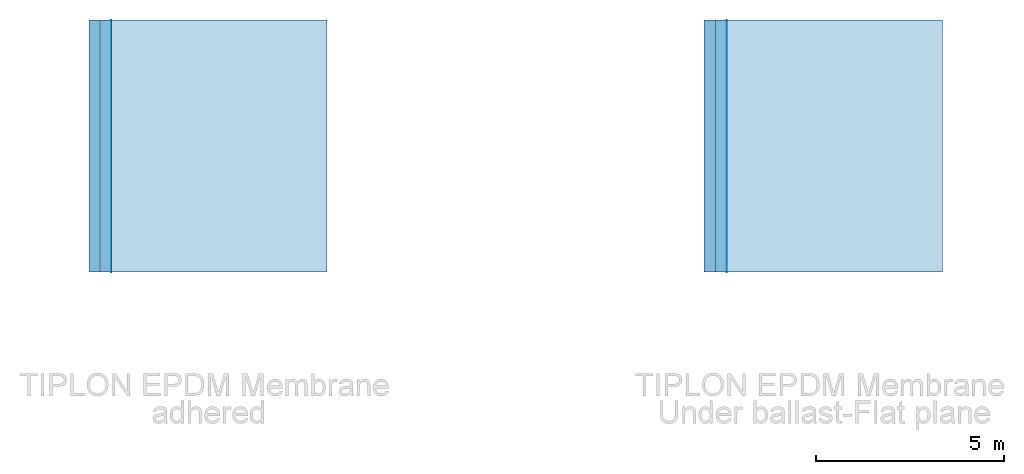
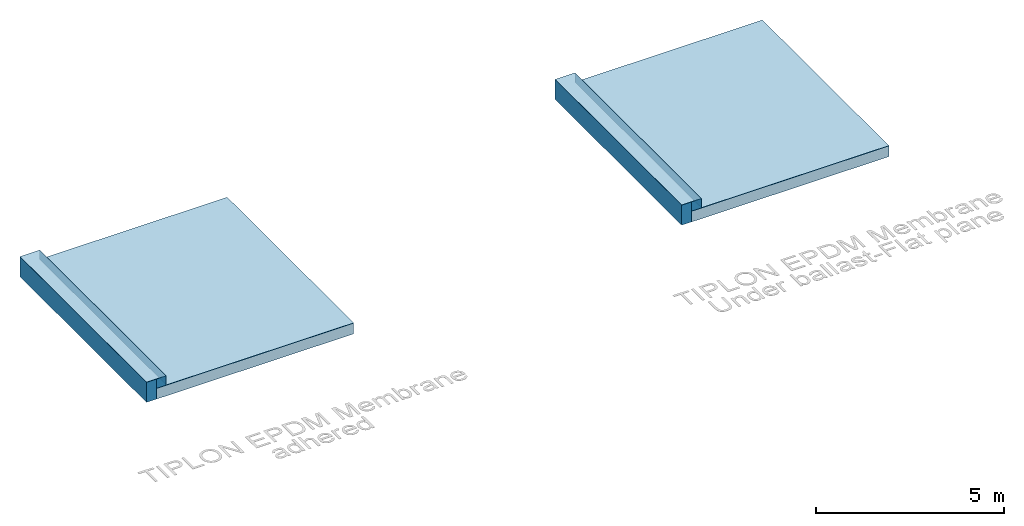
# One storey, incomplete: 6 slabs, 6 walls, 6 elements without a shape of their own.
"""IFC2X3 building model written with IfcOpenShell, lengths in millimetres."""

from ifc_helpers import new_model, entity, si_unit, converted_unit, direction, frame, frame_2d, origin, origin_2d_with_axis, place, context, subcontext, project, spatial, rectangle, extrude, clip, halfspace, material, layer, layer_set, layer_usage, type_object, element, aggregate, save


model = new_model("IFC2X3")

# Units and contexts
model_context = context("Model", 3, precision=0.01, world=origin(), true_north=direction((6.123233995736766e-17, 1.0)))
body_context = subcontext(model_context, "Body", "Model", "MODEL_VIEW")
ifc_project = project(units=[si_unit("LENGTHUNIT", "METRE", prefix="MILLI"), converted_unit("PLANEANGLEUNIT", "DEGREE", entity("IfcPlaneAngleMeasure", 0.017453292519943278), si_unit("PLANEANGLEUNIT", "RADIAN"), dimensions=[0, 0, 0, 0, 0, 0, 0]), si_unit("AREAUNIT", "SQUARE_METRE")], contexts=[model_context])

# Site, building, storey
site_placement = place(None, origin())
site = spatial("IfcSite", under=ifc_project, at=site_placement, Name="Default", CompositionType="ELEMENT")
building_placement = place(site_placement, origin())
building = spatial("IfcBuilding", under=site, at=building_placement, CompositionType="ELEMENT")
storey_placement = place(building_placement, origin())
storey = spatial("IfcBuildingStorey", under=building, at=storey_placement, Name="Niveau 1", CompositionType="ELEMENT", Elevation=0.0)

# Roof, slab
ifc_material_1 = material(Name="Tiplon Membrane EPDM adhered_Flat plane")
ifc_layer_1 = layer(ifc_material_1, 1.5)
ifc_material_2 = material(Name="Contact adhesive Tiplon")
ifc_layer_2 = layer(ifc_material_2, 1.1)
ifc_layer_set_1 = layer_set([ifc_layer_1, ifc_layer_2], Name="Toit de base:Tiplon Membrane EPDM adhered-Flat plane")
roof_1_placement = place(storey_placement, frame((6837.3553681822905, 5160.491318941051, 135.20000000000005)))
roof_1 = element("IfcRoof", 1, at=roof_1_placement, inside=storey, material=ifc_layer_set_1, Name="Toit de base:Tiplon Membrane EPDM adhered-Flat plane", ObjectType="Toit de base:Tiplon Membrane EPDM adhered-Flat plane", ShapeType="NOTDEFINED")
type_product_1 = type_object("IfcTypeProduct", Name="Toit de base:Tiplon Membrane EPDM adhered-Flat plane")
slab_1_placement = place(roof_1_placement, origin())
slab_1 = element("IfcSlab", 2, at=slab_1_placement, type_object=type_product_1, material=ifc_layer_set_1, Name="Toit de base:Tiplon Membrane EPDM adhered-Flat plane", ObjectType="Toit de base:Tiplon Membrane EPDM adhered-Flat plane", PredefinedType="ROOF", context=body_context, shape_type="SweptSolid", body=[
    extrude(rectangle(XDim=6714.46153846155, YDim=5746.950000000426, at=frame_2d((0.0, 0.0), x_axis=(0.0, 1.0))), frame((2873.475000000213, 3357.230769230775, 0.0)), (0.0, 0.0, 1.0), 2.600000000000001),
])
aggregate(roof_1, [slab_1])

ifc_material_3 = material(Name="Polyester protective film")
ifc_layer_3 = layer(ifc_material_3, 0.8)
ifc_material_4 = material(Name="Tiplon Membrane EPDM under ballast_Flat plane")
ifc_layer_4 = layer(ifc_material_4, 1.5)
ifc_layer_set_2 = layer_set([ifc_layer_3, ifc_layer_4], Name="Toit de base:Tiplon Membrane EPDM under ballast-Flat plane")
roof_2_placement = place(storey_placement, frame((23232.555368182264, 5160.6254592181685, 135.20000000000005)))
roof_2 = element("IfcRoof", 3, at=roof_2_placement, inside=storey, material=ifc_layer_set_2, Name="Toit de base:Tiplon Membrane EPDM under ballast-Flat plane", ObjectType="Toit de base:Tiplon Membrane EPDM under ballast-Flat plane", ShapeType="NOTDEFINED")
type_product_2 = type_object("IfcTypeProduct", Name="Toit de base:Tiplon Membrane EPDM under ballast-Flat plane")
slab_2_placement = place(roof_2_placement, origin())
slab_2 = element("IfcSlab", 4, at=slab_2_placement, type_object=type_product_2, material=ifc_layer_set_2, Name="Toit de base:Tiplon Membrane EPDM under ballast-Flat plane", ObjectType="Toit de base:Tiplon Membrane EPDM under ballast-Flat plane", PredefinedType="ROOF", context=body_context, shape_type="SweptSolid", body=[
    extrude(rectangle(XDim=6714.46153846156, YDim=5746.95000000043, at=frame_2d((0.0, 4.547473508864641e-13), x_axis=(0.0, 1.0))), frame((2873.475000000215, 3357.2307692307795, 0.0)), (0.0, 0.0, 1.0), 2.3000000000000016),
])
aggregate(roof_2, [slab_2])

ifc_material_5 = material(Name="Tiplon Membrane EPDM adhered_Upstand")
ifc_layer_5 = layer(ifc_material_5, 1.5)
ifc_layer_6 = layer(ifc_material_2, 1.1)
ifc_layer_set_3 = layer_set([ifc_layer_5, ifc_layer_6], Name="Toit de base:Tiplon Membrane EPDM adhered_Upstands")
roof_3_placement = place(storey_placement, frame((6237.330529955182, 5160.587790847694, 435.2)))
roof_3 = element("IfcRoof", 5, at=roof_3_placement, inside=storey, material=ifc_layer_set_3, Name="Toit de base:Tiplon Membrane EPDM adhered_Upstands", ObjectType="Toit de base:Tiplon Membrane EPDM adhered_Upstands", ShapeType="NOTDEFINED")
type_product_3 = type_object("IfcTypeProduct", Name="Toit de base:Tiplon Membrane EPDM adhered_Upstands")
slab_3_placement = place(roof_3_placement, origin())
slab_3 = element("IfcSlab", 6, at=slab_3_placement, type_object=type_product_3, material=ifc_layer_set_3, Name="Toit de base:Tiplon Membrane EPDM adhered_Upstands", ObjectType="Toit de base:Tiplon Membrane EPDM adhered_Upstands", PredefinedType="ROOF", context=body_context, shape_type="SweptSolid", body=[
    extrude(rectangle(XDim=603.3000000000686, YDim=6714.461538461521, at=frame_2d((0.0, 4.547473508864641e-13), x_axis=(1.0, 0.0))), frame((301.6500000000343, 3357.23076923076, 0.0)), (0.0, 0.0, 1.0), 2.600000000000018),
])
aggregate(roof_3, [slab_3])

roof_4_placement = place(storey_placement, frame((22632.497433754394, 5160.679768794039, 435.2)))
roof_4 = element("IfcRoof", 7, at=roof_4_placement, inside=storey, material=ifc_layer_set_3, Name="Toit de base:Tiplon Membrane EPDM adhered_Upstands", ObjectType="Toit de base:Tiplon Membrane EPDM adhered_Upstands", ShapeType="NOTDEFINED")
slab_4_placement = place(roof_4_placement, origin())
slab_4 = element("IfcSlab", 8, at=slab_4_placement, type_object=type_product_3, material=ifc_layer_set_3, Name="Toit de base:Tiplon Membrane EPDM adhered_Upstands", ObjectType="Toit de base:Tiplon Membrane EPDM adhered_Upstands", PredefinedType="ROOF", context=body_context, shape_type="SweptSolid", body=[
    extrude(rectangle(XDim=603.3000000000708, YDim=6714.461538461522, at=origin_2d_with_axis()), frame((301.6500000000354, 3357.230769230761, 0.0)), (0.0, 0.0, 1.0), 2.600000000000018),
])
aggregate(roof_4, [slab_4])

ifc_material_6 = material(Name="Isolation")
ifc_layer_7 = layer(ifc_material_6, 100.0)
ifc_material_7 = material(Name="Pare vapeur")
ifc_layer_8 = layer(ifc_material_7, 0.8)
ifc_material_8 = material(Name="Béton de pente")
ifc_layer_9 = layer(ifc_material_8, 50.0)
ifc_material_9 = material(Name="Structure porteuse")
ifc_layer_10 = layer(ifc_material_9, 200.0)
ifc_layer_set_4 = layer_set([ifc_layer_7, ifc_layer_8, ifc_layer_9, ifc_layer_10], Name="Toit de base:Toit-Support autorisé")
roof_5_placement = place(storey_placement, frame((6537.408916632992, 5161.058915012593, -215.60000000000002)))
roof_5 = element("IfcRoof", 9, at=roof_5_placement, inside=storey, material=ifc_layer_set_4, Name="Toit de base:Toit-Support autorisé", ObjectType="Toit de base:Toit-Support autorisé", ShapeType="NOTDEFINED")
type_product_4 = type_object("IfcTypeProduct", Name="Toit de base:Toit-Support autorisé")
slab_5_placement = place(roof_5_placement, origin())
slab_5 = element("IfcSlab", 10, at=slab_5_placement, type_object=type_product_4, material=ifc_layer_set_4, Name="Toit de base:Toit-Support autorisé", ObjectType="Toit de base:Toit-Support autorisé", PredefinedType="ROOF", context=body_context, shape_type="SweptSolid", body=[
    extrude(rectangle(XDim=6046.950000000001, YDim=6714.461538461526, at=frame_2d((-1.1368683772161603e-12, 0.0), x_axis=(1.0, 0.0))), frame((3023.4750000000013, 3357.230769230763, 0.0)), (0.0, 0.0, 1.0), 350.80000000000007),
])
aggregate(roof_5, [slab_5])

roof_6_placement = place(storey_placement, frame((22932.568981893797, 5160.81642946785, -215.60000000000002)))
roof_6 = element("IfcRoof", 11, at=roof_6_placement, inside=storey, material=ifc_layer_set_4, Name="Toit de base:Toit-Support autorisé", ObjectType="Toit de base:Toit-Support autorisé", ShapeType="NOTDEFINED")
slab_6_placement = place(roof_6_placement, origin())
slab_6 = element("IfcSlab", 12, at=slab_6_placement, type_object=type_product_4, material=ifc_layer_set_4, Name="Toit de base:Toit-Support autorisé", ObjectType="Toit de base:Toit-Support autorisé", PredefinedType="ROOF", context=body_context, shape_type="SweptSolid", body=[
    extrude(rectangle(XDim=6046.950000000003, YDim=6714.461538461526, at=frame_2d((2.2737367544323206e-12, 0.0), x_axis=(1.0, 0.0))), frame((3023.474999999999, 3357.230769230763, 0.0)), (0.0, 0.0, 1.0), 350.80000000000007),
])
aggregate(roof_6, [slab_6])

# Walls
ifc_layer_11 = layer(ifc_material_6, 100.0)
ifc_material_10 = material(Name="Maçonnerie ascendante")
ifc_layer_12 = layer(ifc_material_10, 200.0)
ifc_layer_set_5 = layer_set([ifc_layer_11, ifc_layer_12], Name="Mur de base:Mur 1")
ifc_layer_usage_1 = layer_usage(ifc_layer_set_5, "AXIS2", "NEGATIVE", 150.00000000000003)
wall_type_1 = type_object("IfcWallType", Name="Mur de base:Mur 1", PredefinedType="STANDARD", material=ifc_layer_set_5)
wall_1_placement = place(storey_placement, frame((6387.355368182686, 11874.952857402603, -215.6), z_axis=(0.0, 0.0, 1.0), x_axis=(0.0, -1.0, 0.0)))
element("IfcWallStandardCase", 13, at=wall_1_placement, inside=storey, type_object=wall_type_1, material=ifc_layer_usage_1, Name="Mur de base:Mur 1", ObjectType="Mur de base:Mur 1", context=body_context, shape_type="SweptSolid", body=[
    extrude(rectangle(XDim=6714.461538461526, YDim=300.0000000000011, at=frame_2d((3357.230769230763, 0.0), x_axis=(-1.0, 0.0))), origin(), (0.0, 0.0, 1.0), 650.8000000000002),
])
ifc_layer_usage_2 = layer_usage(ifc_layer_set_5, "AXIS2", "NEGATIVE", 150.00000000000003)
wall_2_placement = place(storey_placement, frame((6687.355368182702, 11874.952857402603, 135.20000000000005), z_axis=(0.0, 0.0, 1.0), x_axis=(0.0, -1.0, 0.0)))
element("IfcWallStandardCase", 14, at=wall_2_placement, inside=storey, type_object=wall_type_1, material=ifc_layer_usage_2, Name="Mur de base:Mur 1", ObjectType="Mur de base:Mur 1", context=body_context, shape_type="Clipping", body=[
    clip(extrude(rectangle(XDim=6714.461538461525, YDim=300.0000000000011, at=frame_2d((3357.2307692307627, 0.0), x_axis=(-1.0, 0.0))), origin(), (0.0, 0.0, 1.0), 300.0), halfspace(frame((6714.461538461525, -150.0, 0.0), z_axis=(0.0, 0.0, -1.0), x_axis=(0.0, 1.0, 0.0)), False)),
])
ifc_layer_usage_3 = layer_usage(ifc_layer_set_5, "AXIS2", "NEGATIVE", 150.00000000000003)
wall_3_placement = place(storey_placement, frame((22782.555368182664, 11875.08699767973, -215.6), z_axis=(0.0, 0.0, 1.0), x_axis=(0.0, -1.0, 0.0)))
element("IfcWallStandardCase", 15, at=wall_3_placement, inside=storey, type_object=wall_type_1, material=ifc_layer_usage_3, Name="Mur de base:Mur 1", ObjectType="Mur de base:Mur 1", context=body_context, shape_type="SweptSolid", body=[
    extrude(rectangle(XDim=6714.461538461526, YDim=300.00000000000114, at=frame_2d((3357.230769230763, -1.6200374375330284e-12), x_axis=(-1.0, 0.0))), origin(), (0.0, 0.0, 1.0), 650.8000000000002),
])
ifc_layer_usage_4 = layer_usage(ifc_layer_set_5, "AXIS2", "NEGATIVE", 150.00000000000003)
wall_4_placement = place(storey_placement, frame((23082.55536818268, 11875.086997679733, 135.20000000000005), z_axis=(0.0, 0.0, 1.0), x_axis=(0.0, -1.0, 0.0)))
element("IfcWallStandardCase", 16, at=wall_4_placement, inside=storey, type_object=wall_type_1, material=ifc_layer_usage_4, Name="Mur de base:Mur 1", ObjectType="Mur de base:Mur 1", context=body_context, shape_type="Clipping", body=[
    clip(extrude(rectangle(XDim=6714.461538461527, YDim=300.0000000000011, at=frame_2d((3357.2307692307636, 5.400124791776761e-13), x_axis=(-1.0, 0.0))), origin(), (0.0, 0.0, 1.0), 300.0), halfspace(frame((6714.461538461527, -150.0, 0.0), z_axis=(0.0, 0.0, -1.0), x_axis=(0.0, 1.0, 0.0)), False)),
])
ifc_layer_13 = layer(ifc_material_5, 1.5)
ifc_layer_14 = layer(ifc_material_2, 1.1)
ifc_layer_set_6 = layer_set([ifc_layer_13, ifc_layer_14], Name="Mur de base:Tiplon Membrane EPDM adhered-Upstand")
ifc_layer_usage_5 = layer_usage(ifc_layer_set_6, "AXIS2", "NEGATIVE", 1.3)
wall_type_2 = type_object("IfcWallType", Name="Mur de base:Tiplon Membrane EPDM adhered-Upstand", PredefinedType="STANDARD", material=ifc_layer_set_6)
wall_5_placement = place(storey_placement, frame((6839.005368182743, 11874.9528574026, 138.50000000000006), z_axis=(0.0, 0.0, 1.0), x_axis=(0.0, -1.0, 0.0)))
element("IfcWallStandardCase", 17, at=wall_5_placement, inside=storey, type_object=wall_type_2, material=ifc_layer_usage_5, Name="Mur de base:Tiplon Membrane EPDM adhered-Upstand", ObjectType="Mur de base:Tiplon Membrane EPDM adhered-Upstand", context=body_context, shape_type="SweptSolid", body=[
    extrude(rectangle(XDim=6714.461538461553, YDim=2.599999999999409, at=frame_2d((3357.2307692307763, 1.887379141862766e-14), x_axis=(-1.0, 0.0))), origin(), (0.0, 0.0, 1.0), 296.7000000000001),
])
ifc_layer_usage_6 = layer_usage(ifc_layer_set_6, "AXIS2", "NEGATIVE", 1.3)
wall_6_placement = place(storey_placement, frame((23234.205368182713, 11875.08699767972, 138.20000000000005), z_axis=(0.0, 0.0, 1.0), x_axis=(0.0, -1.0, 0.0)))
element("IfcWallStandardCase", 18, at=wall_6_placement, inside=storey, type_object=wall_type_2, material=ifc_layer_usage_6, Name="Mur de base:Tiplon Membrane EPDM adhered-Upstand", ObjectType="Mur de base:Tiplon Membrane EPDM adhered-Upstand", context=body_context, shape_type="SweptSolid", body=[
    extrude(rectangle(XDim=6714.461538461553, YDim=2.599999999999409, at=frame_2d((3357.2307692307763, 1.887379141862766e-14), x_axis=(-1.0, 0.0))), origin(), (0.0, 0.0, 1.0), 297.0000000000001),
])

save(model, "model.ifc")
